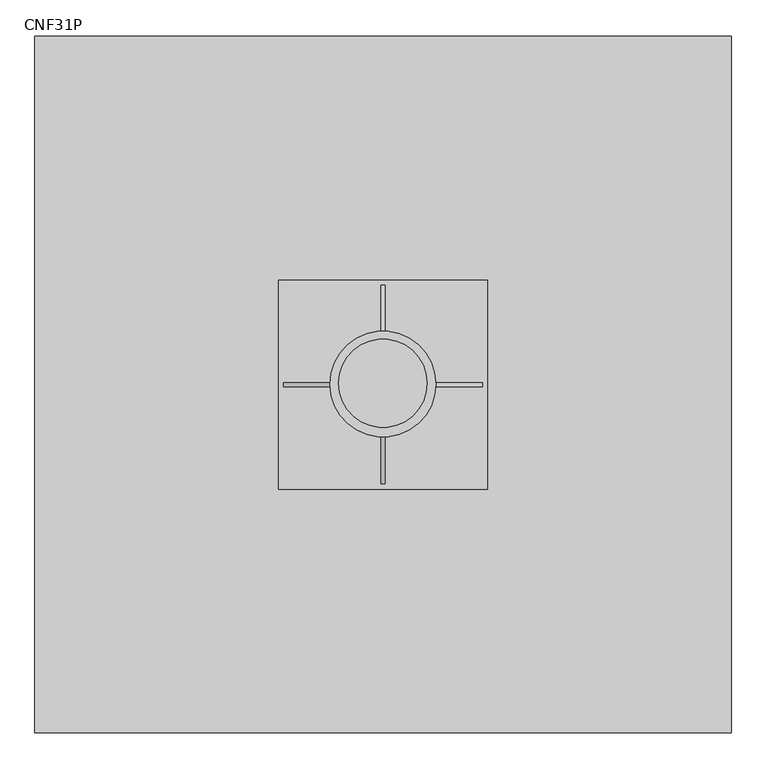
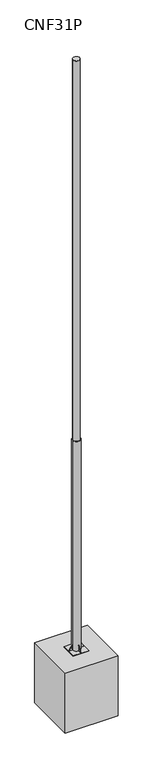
"""IFC4 building model written with IfcOpenShell, lengths in millimetres: light fixture geometry, CANDELA_CNF_RAF : CNF31P."""

from ifc_helpers import new_model, si_unit, point, frame, origin, origin_2d, place, context, project, spatial, polyline, circle_curve, trimmed, segment, composite_curve, outline, extrude, source, transform, mapped, element, save


def cnf31p_0bf3cfd4(model_context):
    return source(origin(), model_context, "Body", "SweptSolid", [
        extrude(outline(polyline([(500.0, 500.0), (500.0, -500.0), (-500.0, -500.0), (-500.0, 500.0), (500.0, 500.0)])), frame((0.0, 0.0, -1400.0), z_axis=(0.0, 0.0, 1.0), x_axis=(1.0, 0.0, 0.0)), (0.0, 0.0, 1.0), 1200.0),
        extrude(outline(composite_curve([segment(trimmed(circle_curve(origin_2d(), 76.0), [point((-76.0, 0.0))], [point((76.0, 0.0))], False, "CARTESIAN"), True, "CONTINUOUS"), segment(trimmed(circle_curve(origin_2d(), 76.0), [point((76.0, 0.0))], [point((-76.0, 0.0))], False, "CARTESIAN"), True, "CONTINUOUS")], self_intersect=False)), frame((0.0, 0.0, -190.0), z_axis=(0.0, 0.0, 1.0), x_axis=(1.0, 0.0, 0.0)), (0.0, 0.0, 1.0), 4190.0),
        extrude(outline(polyline([(57.15, -40.0), (142.65, -190.0), (79.9181562, -190.0), (57.15, -150.0558663), (57.15, -40.0)])), frame((-3.0, 0.0, 0.0), z_axis=(1.0, 0.0, 0.0), x_axis=(0.0, 1.0, 0.0)), (0.0, 0.0, 1.0), 6.0),
        extrude(outline(polyline([(-57.15, -40.0), (-57.15, -150.0558663), (-79.9181562, -190.0), (-142.65, -190.0), (-57.15, -40.0)])), frame((-3.0, 0.0, 0.0), z_axis=(1.0, 0.0, 0.0), x_axis=(0.0, 1.0, 0.0)), (0.0, 0.0, 1.0), 6.0),
        extrude(outline(polyline([(-40.0, -57.15), (-190.0, -142.65), (-190.0, -79.9181562), (-150.0558663, -57.15), (-40.0, -57.15)])), frame((0.0, -3.0, 0.0), z_axis=(0.0, 1.0, 0.0), x_axis=(0.0, 0.0, 1.0)), (0.0, 0.0, 1.0), 6.0),
        extrude(outline(polyline([(-40.0, 57.15), (-150.0558663, 57.15), (-190.0, 79.9181562), (-190.0, 142.65), (-40.0, 57.15)])), frame((0.0, -3.0, 0.0), z_axis=(0.0, 1.0, 0.0), x_axis=(0.0, 0.0, 1.0)), (0.0, 0.0, 1.0), 6.0),
        extrude(outline(composite_curve([segment(trimmed(circle_curve(origin_2d(), 63.5), [point((-63.5, 0.0))], [point((63.5, 0.0))], False, "CARTESIAN"), True, "CONTINUOUS"), segment(trimmed(circle_curve(origin_2d(), 63.5), [point((63.5, 0.0))], [point((-63.5, 0.0))], False, "CARTESIAN"), True, "CONTINUOUS")], self_intersect=False)), frame((0.0, 0.0, -190.0), z_axis=(0.0, 0.0, 1.0), x_axis=(1.0, 0.0, 0.0)), (0.0, 0.0, 1.0), 11790.0),
        extrude(outline(polyline([(150.0, 150.0), (150.0, -150.0), (-150.0, -150.0), (-150.0, 150.0), (150.0, 150.0)])), frame((0.0, 0.0, -200.0), z_axis=(0.0, 0.0, 1.0), x_axis=(1.0, 0.0, 0.0)), (0.0, 0.0, 1.0), 10.0),
    ])


if __name__ == "__main__":
    model = new_model("IFC4")
    model_context = context("Model", 3, world=origin())
    ifc_project = project(units=[si_unit("LENGTHUNIT", "METRE", prefix="MILLI")], contexts=[model_context])
    site = spatial("IfcSite", under=ifc_project)
    building = spatial("IfcBuilding", under=site)
    placement = place(None, origin())
    cnf31p_shape = cnf31p_0bf3cfd4(model_context)
    element("IfcLightFixture", 1, ObjectType="CANDELA_CNF_RAF : CNF31P", at=placement, inside=building, context=model_context, shape_type="MappedRepresentation", body=[
        mapped(cnf31p_shape, transform((0.0, 0.0, 0.0), x_axis=(1.0, 0.0, 0.0), y_axis=(0.0, 1.0, 0.0), z_axis=(0.0, 0.0, 1.0))),
    ])
    save(model, "model.ifc")
